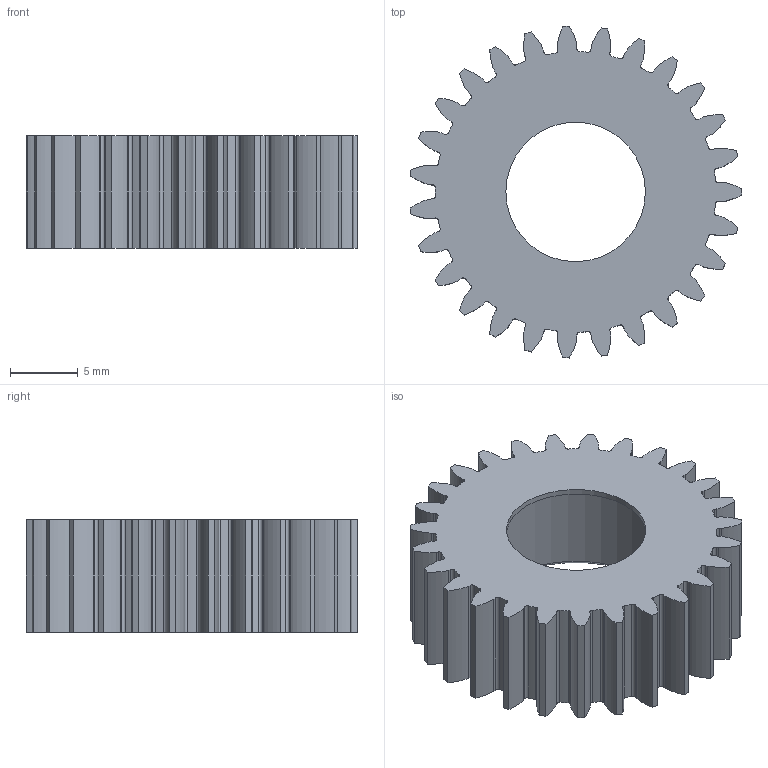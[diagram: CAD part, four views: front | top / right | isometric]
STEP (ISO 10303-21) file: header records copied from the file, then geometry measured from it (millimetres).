
FILE_DESCRIPTION(/* description */ ('STEP AP242 Edition 2','CAx-IF Rec.Pracs.---Representation and Presentation of Product Manufacturing Information (PMI)---4.0---2014-10-13','CAx-IF Rec.Pracs.---3D Tessellated Geometry---0.4---2014-09-14','2;1','CAx-IF Rec.Pracs.---User Defined Attributes---1.5---2016-08-15'),/* implementation_level */ '2;1');
FILE_NAME(/* name */ 'Main - Planet Gear',/* time_stamp */ '2026-09-22T02:10:48Z',/* author */ (''),/* organization */ (''),/* preprocessor_version */ 'ST-DEVELOPER v20',/* originating_system */ 'ONSHAPE BY PTC INC, 1.221',/* authorisation */ ' ');
FILE_SCHEMA (('AP242_MANAGED_MODEL_BASED_3D_ENGINEERING_MIM_LF { 1 0 10303 442 3 1 4 }'));
Length unit declared in the file: metre
Products named in the file (1): Planet Gear
Bounding box: 24.49 x 24.53 x 8.33 mm (x, y, z)
Volume: 1983.2 mm3; surface area: 2192.4 mm2
Topology: 1 solids, 1 shells, 222 faces, 656 edges, 437 vertices
Faces by surface type: plane 84, cylinder 83, bspline 54, cone 1
Full cylindrical faces by diameter (mm): 10.319 x1, 14.415 x1
Entity records: 10778 total; most frequent: CARTESIAN_POINT 5039, ORIENTED_EDGE 1306, DIRECTION 1050, EDGE_CURVE 653, VERTEX_POINT 437, LINE 378, VECTOR 378, AXIS2_PLACEMENT_3D 336
